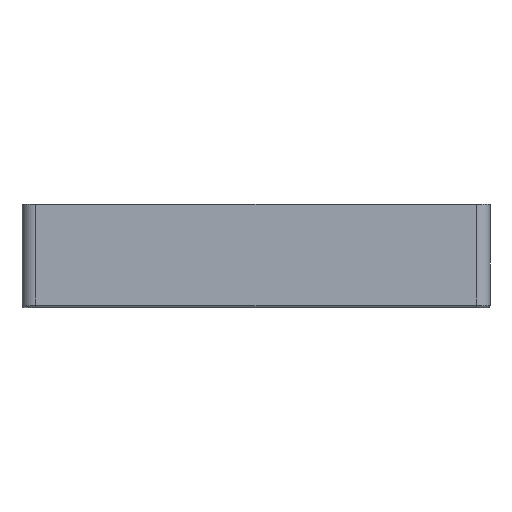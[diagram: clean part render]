
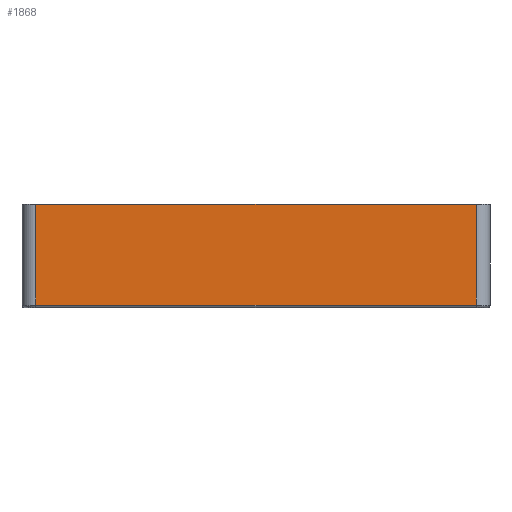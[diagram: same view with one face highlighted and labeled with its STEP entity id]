
A CAD part, left-side view. The second image highlights one B-rep face of the part: STEP entity #1868.
In plain terms, the highlighted planar face has unit normal (-1, 0, 0).
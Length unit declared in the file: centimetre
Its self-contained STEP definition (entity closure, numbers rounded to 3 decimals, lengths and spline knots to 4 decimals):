
#312=FACE_OUTER_BOUND($,#441,.T.);
#441=EDGE_LOOP($,(#1397,#1398,#1399,#1400));
#673=LINE($,#2996,#798);
#674=LINE($,#2998,#799);
#675=LINE($,#3000,#800);
#676=LINE($,#3001,#801);
#798=VECTOR($,#2355,9.56);
#799=VECTOR($,#2356,2.19);
#800=VECTOR($,#2357,9.56);
#801=VECTOR($,#2358,2.19);
#928=VERTEX_POINT($,#2994);
#929=VERTEX_POINT($,#2995);
#930=VERTEX_POINT($,#2997);
#931=VERTEX_POINT($,#2999);
#1126=EDGE_CURVE($,#928,#929,#673,.F.);
#1127=EDGE_CURVE($,#930,#928,#674,.T.);
#1128=EDGE_CURVE($,#931,#930,#675,.T.);
#1129=EDGE_CURVE($,#929,#931,#676,.T.);
#1397=ORIENTED_EDGE($,*,*,#1126,.F.);
#1398=ORIENTED_EDGE($,*,*,#1127,.F.);
#1399=ORIENTED_EDGE($,*,*,#1128,.F.);
#1400=ORIENTED_EDGE($,*,*,#1129,.F.);
#1820=PLANE($,#2019);
#1868=ADVANCED_FACE($,(#312),#1820,.F.);
#2019=AXIS2_PLACEMENT_3D($,#2993,#2353,#2354);
#2353=DIRECTION('center_axis',(1.,0.,0.));
#2354=DIRECTION('ref_axis',(0.,0.,-1.));
#2355=DIRECTION($,(0.,1.,0.));
#2356=DIRECTION($,(0.,0.,1.));
#2357=DIRECTION($,(0.,1.,0.));
#2358=DIRECTION($,(0.,0.,-1.));
#2993=CARTESIAN_POINT('Origin',(-48.456,-89.973,-0.0295));
#2994=CARTESIAN_POINT('',(-48.456,-85.193,1.3305));
#2995=CARTESIAN_POINT('',(-48.456,-94.753,1.3305));
#2996=CARTESIAN_POINT($,(-48.456,-89.973,1.3305));
#2997=CARTESIAN_POINT('',(-48.456,-85.193,-0.8595));
#2998=CARTESIAN_POINT($,(-48.456,-85.193,-0.0295));
#2999=CARTESIAN_POINT('',(-48.456,-94.753,-0.8595));
#3000=CARTESIAN_POINT($,(-48.456,-89.973,-0.8595));
#3001=CARTESIAN_POINT($,(-48.456,-94.753,-0.0295));
